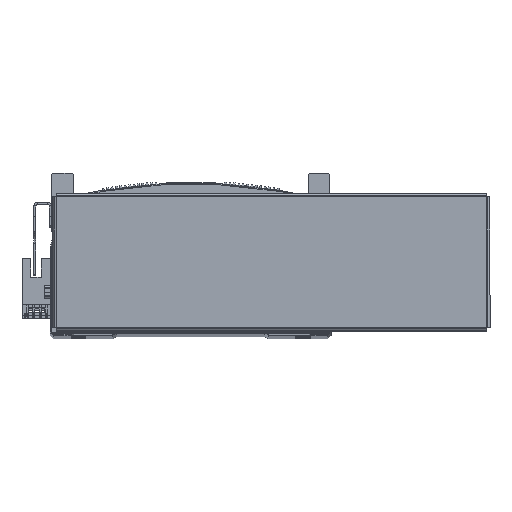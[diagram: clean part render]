
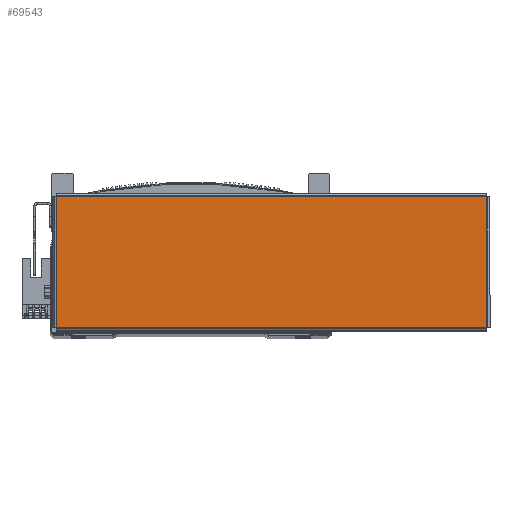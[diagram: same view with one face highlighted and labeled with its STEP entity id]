
A CAD part, top view. The second image highlights one B-rep face of the part: STEP entity #69543.
In plain terms, the highlighted planar face has unit normal (0, 0, 1) as drawn and (0, -1, 0) by its records, which use the part's own axes.
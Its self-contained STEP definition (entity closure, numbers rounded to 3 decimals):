
#5890 = PLANE ( 'NONE',  #66834 ) ;
#5910 = DIRECTION ( 'NONE',  ( 0., 0., 1. ) ) ;
#5924 = CARTESIAN_POINT ( 'NONE',  ( 0., -1., 0. ) ) ;
#5932 = DIRECTION ( 'NONE',  ( 0., 1., 0. ) ) ;
#13182 = CARTESIAN_POINT ( 'NONE',  ( -103.513, -1., 31.393 ) ) ;
#13192 = DIRECTION ( 'NONE',  ( 0., 0., 1. ) ) ;
#13206 = CARTESIAN_POINT ( 'NONE',  ( 103.513, -1., -31.393 ) ) ;
#13213 = DIRECTION ( 'NONE',  ( 0., 0., -1. ) ) ;
#13258 = DIRECTION ( 'NONE',  ( -1., 0., 0. ) ) ;
#13264 = CARTESIAN_POINT ( 'NONE',  ( 103.543, -1., 31.363 ) ) ;
#13482 = DIRECTION ( 'NONE',  ( 1., 0., 0. ) ) ;
#13512 = CARTESIAN_POINT ( 'NONE',  ( -103.543, -1., -31.363 ) ) ;
#20910 = VECTOR ( 'NONE', #13213, 1000. ) ;
#20946 = LINE ( 'NONE', #13182, #20910 ) ;
#20981 = LINE ( 'NONE', #13206, #20990 ) ;
#20990 = VECTOR ( 'NONE', #13192, 1000. ) ;
#21022 = VECTOR ( 'NONE', #13258, 1000. ) ;
#21047 = LINE ( 'NONE', #13264, #21022 ) ;
#21127 = VECTOR ( 'NONE', #13482, 1000. ) ;
#21141 = LINE ( 'NONE', #13512, #21127 ) ;
#31451 = CARTESIAN_POINT ( 'NONE',  ( -103.513, -1., -31.363 ) ) ;
#31512 = CARTESIAN_POINT ( 'NONE',  ( 103.513, -1., -31.363 ) ) ;
#31538 = CARTESIAN_POINT ( 'NONE',  ( 103.513, -1., 31.363 ) ) ;
#31594 = CARTESIAN_POINT ( 'NONE',  ( -103.513, -1., 31.363 ) ) ;
#34605 = VERTEX_POINT ( 'NONE', #31451 ) ;
#34609 = VERTEX_POINT ( 'NONE', #31512 ) ;
#34649 = VERTEX_POINT ( 'NONE', #31538 ) ;
#34671 = VERTEX_POINT ( 'NONE', #31594 ) ;
#42755 = EDGE_CURVE ( 'NONE', #34609, #34649, #20981, .T. ) ;
#42760 = EDGE_CURVE ( 'NONE', #34671, #34605, #20946, .T. ) ;
#42826 = EDGE_CURVE ( 'NONE', #34649, #34671, #21047, .T. ) ;
#42954 = EDGE_CURVE ( 'NONE', #34605, #34609, #21141, .T. ) ;
#61495 = FACE_OUTER_BOUND ( 'NONE', #68694, .T. ) ;
#65094 = ORIENTED_EDGE ( 'NONE', *, *, #42760, .T. ) ;
#65102 = ORIENTED_EDGE ( 'NONE', *, *, #42826, .T. ) ;
#65128 = ORIENTED_EDGE ( 'NONE', *, *, #42954, .T. ) ;
#66834 = AXIS2_PLACEMENT_3D ( 'NONE', #5924, #5932, #5910 ) ;
#68694 = EDGE_LOOP ( 'NONE', ( #65102, #65094, #65128, #72785 ) ) ;
#69543 = ADVANCED_FACE ( 'NONE', ( #61495 ), #5890, .F. ) ;
#72785 = ORIENTED_EDGE ( 'NONE', *, *, #42755, .T. ) ;
